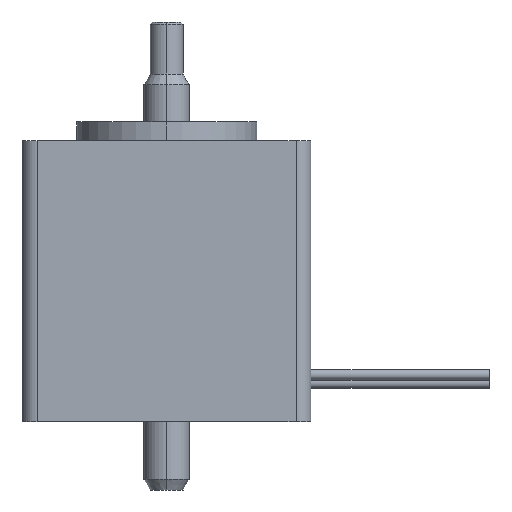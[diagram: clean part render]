
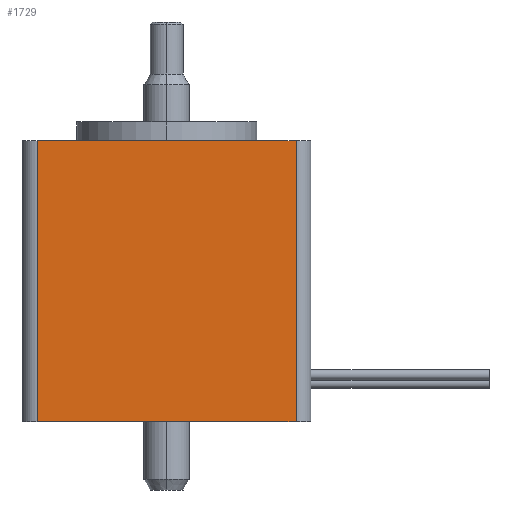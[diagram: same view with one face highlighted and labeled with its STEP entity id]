
A CAD part, left-side view. The second image highlights one B-rep face of the part: STEP entity #1729.
In plain terms, the highlighted planar face has unit normal (-1, 0, 0).
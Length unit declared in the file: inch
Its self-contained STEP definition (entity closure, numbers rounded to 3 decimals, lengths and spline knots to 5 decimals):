
#65 = LINE ( 'NONE', #2533, #1790 ) ;
#115 = VECTOR ( 'NONE', #2537, 39.37008 ) ;
#176 = CARTESIAN_POINT ( 'NONE',  ( -0.69291, 0.69291, -1.35276 ) ) ;
#256 = CARTESIAN_POINT ( 'NONE',  ( -0.69291, 0.69291, 0. ) ) ;
#398 = DIRECTION ( 'NONE',  ( 0., -1., 0. ) ) ;
#438 = ORIENTED_EDGE ( 'NONE', *, *, #2386, .T. ) ;
#470 = EDGE_CURVE ( 'NONE', #1046, #1382, #981, .T. ) ;
#478 = CARTESIAN_POINT ( 'NONE',  ( -0.69291, 0.62205, -1.35276 ) ) ;
#540 = DIRECTION ( 'NONE',  ( -1., 0., 0. ) ) ;
#730 = DIRECTION ( 'NONE',  ( 0., 0., 1. ) ) ;
#893 = VERTEX_POINT ( 'NONE', #1770 ) ;
#913 = CARTESIAN_POINT ( 'NONE',  ( -0.69291, 0.62205, -1.35276 ) ) ;
#981 = LINE ( 'NONE', #176, #1210 ) ;
#993 = CARTESIAN_POINT ( 'NONE',  ( -0.69291, 0.69291, -1.35276 ) ) ;
#1041 = VERTEX_POINT ( 'NONE', #1341 ) ;
#1046 = VERTEX_POINT ( 'NONE', #913 ) ;
#1082 = DIRECTION ( 'NONE',  ( 0., -1., 0. ) ) ;
#1134 = ORIENTED_EDGE ( 'NONE', *, *, #1715, .F. ) ;
#1151 = CARTESIAN_POINT ( 'NONE',  ( -0.69291, -0.62205, -1.35276 ) ) ;
#1210 = VECTOR ( 'NONE', #398, 39.37008 ) ;
#1242 = VECTOR ( 'NONE', #1082, 39.37008 ) ;
#1341 = CARTESIAN_POINT ( 'NONE',  ( -0.69291, -0.62205, 0. ) ) ;
#1382 = VERTEX_POINT ( 'NONE', #1151 ) ;
#1399 = EDGE_CURVE ( 'NONE', #893, #1046, #1728, .T. ) ;
#1400 = DIRECTION ( 'NONE',  ( 0., -1., 0. ) ) ;
#1510 = LINE ( 'NONE', #256, #1242 ) ;
#1526 = FACE_OUTER_BOUND ( 'NONE', #2412, .T. ) ;
#1715 = EDGE_CURVE ( 'NONE', #893, #1041, #1510, .T. ) ;
#1728 = LINE ( 'NONE', #478, #115 ) ;
#1729 = ADVANCED_FACE ( 'NONE', ( #1526 ), #2307, .T. ) ;
#1770 = CARTESIAN_POINT ( 'NONE',  ( -0.69291, 0.62205, 0. ) ) ;
#1790 = VECTOR ( 'NONE', #730, 39.37008 ) ;
#1855 = AXIS2_PLACEMENT_3D ( 'NONE', #993, #540, #1400 ) ;
#2032 = ORIENTED_EDGE ( 'NONE', *, *, #470, .T. ) ;
#2307 = PLANE ( 'NONE',  #1855 ) ;
#2340 = ORIENTED_EDGE ( 'NONE', *, *, #1399, .T. ) ;
#2386 = EDGE_CURVE ( 'NONE', #1382, #1041, #65, .T. ) ;
#2412 = EDGE_LOOP ( 'NONE', ( #2032, #438, #1134, #2340 ) ) ;
#2533 = CARTESIAN_POINT ( 'NONE',  ( -0.69291, -0.62205, -1.35276 ) ) ;
#2537 = DIRECTION ( 'NONE',  ( 0., 0., -1. ) ) ;
